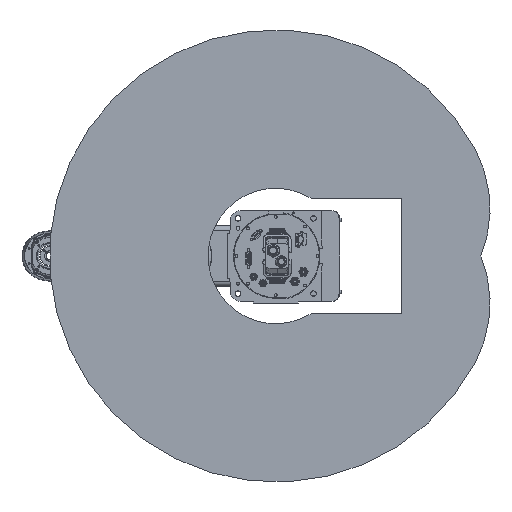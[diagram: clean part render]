
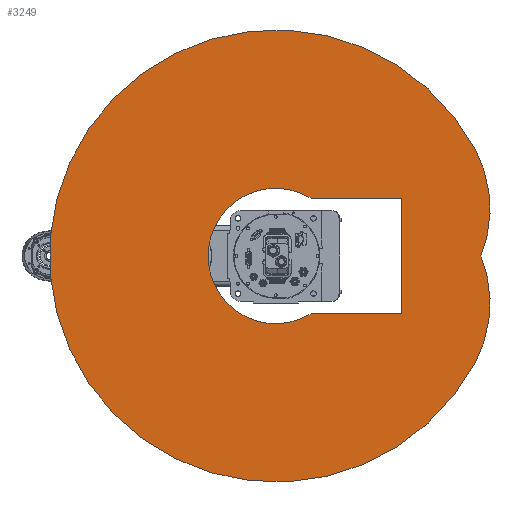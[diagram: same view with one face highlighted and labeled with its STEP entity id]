
A CAD part, front view. The second image highlights one B-rep face of the part: STEP entity #3249.
In plain terms, the highlighted planar face has unit normal (0, -1, 0).
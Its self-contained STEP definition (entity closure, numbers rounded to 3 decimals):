
#3249 = ADVANCED_FACE( '', ( #9114, #9115 ), #9116, .F. );
#9114 = FACE_OUTER_BOUND( '', #18677, .T. );
#9115 = FACE_BOUND( '', #18678, .T. );
#9116 = PLANE( '', #18679 );
#18677 = EDGE_LOOP( '', ( #29489, #29490, #29491 ) );
#18678 = EDGE_LOOP( '', ( #29492, #29493, #29494, #29495 ) );
#18679 = AXIS2_PLACEMENT_3D( '', #29496, #29497, #29498 );
#29489 = ORIENTED_EDGE( '', *, *, #52348, .F. );
#29490 = ORIENTED_EDGE( '', *, *, #52349, .F. );
#29491 = ORIENTED_EDGE( '', *, *, #52350, .F. );
#29492 = ORIENTED_EDGE( '', *, *, #52351, .T. );
#29493 = ORIENTED_EDGE( '', *, *, #52352, .T. );
#29494 = ORIENTED_EDGE( '', *, *, #52353, .T. );
#29495 = ORIENTED_EDGE( '', *, *, #52354, .T. );
#29496 = CARTESIAN_POINT( '', ( 46.947, 0., 88.295 ) );
#29497 = DIRECTION( '', ( 0., 1., 0. ) );
#29498 = DIRECTION( '', ( 0., 0., 1. ) );
#52348 = EDGE_CURVE( '', #61685, #61686, #61687, .T. );
#52349 = EDGE_CURVE( '', #61688, #61685, #61689, .T. );
#52350 = EDGE_CURVE( '', #61686, #61688, #61690, .T. );
#52351 = EDGE_CURVE( '', #61691, #61692, #61693, .T. );
#52352 = EDGE_CURVE( '', #61692, #61694, #61695, .T. );
#52353 = EDGE_CURVE( '', #61694, #61696, #61697, .T. );
#52354 = EDGE_CURVE( '', #61696, #61691, #61698, .T. );
#61685 = VERTEX_POINT( '', #75896 );
#61686 = VERTEX_POINT( '', #75897 );
#61687 = CIRCLE( '', #75898, 250. );
#61688 = VERTEX_POINT( '', #75899 );
#61689 = CIRCLE( '', #75900, 250. );
#61690 = CIRCLE( '', #75901, 450. );
#61691 = VERTEX_POINT( '', #75902 );
#61692 = VERTEX_POINT( '', #75903 );
#61693 = LINE( '', #75904, #75905 );
#61694 = VERTEX_POINT( '', #75906 );
#61695 = LINE( '', #75907, #75908 );
#61696 = VERTEX_POINT( '', #75909 );
#61697 = LINE( '', #75910, #75911 );
#61698 = CIRCLE( '', #75912, 134.76 );
#75896 = CARTESIAN_POINT( '', ( 0., 0., 408.287 ) );
#75897 = CARTESIAN_POINT( '', ( 211.262, 0., 397.326 ) );
#75898 = AXIS2_PLACEMENT_3D( '', #97326, #97327, #97328 );
#75899 = CARTESIAN_POINT( '', ( -211.262, 0., 397.326 ) );
#75900 = AXIS2_PLACEMENT_3D( '', #97329, #97330, #97331 );
#75901 = AXIS2_PLACEMENT_3D( '', #97332, #97333, #97334 );
#75902 = CARTESIAN_POINT( '', ( -115., 0., 70.251 ) );
#75903 = CARTESIAN_POINT( '', ( -115., 0., 250. ) );
#75904 = CARTESIAN_POINT( '', ( -115., 0., 0. ) );
#75905 = VECTOR( '', #97335, 1000. );
#75906 = CARTESIAN_POINT( '', ( 115., 0., 250. ) );
#75907 = CARTESIAN_POINT( '', ( -115., 0., 250. ) );
#75908 = VECTOR( '', #97336, 1000. );
#75909 = CARTESIAN_POINT( '', ( 115., 0., 70.251 ) );
#75910 = CARTESIAN_POINT( '', ( 115., 0., 250. ) );
#75911 = VECTOR( '', #97337, 1000. );
#75912 = AXIS2_PLACEMENT_3D( '', #97338, #97339, #97340 );
#97326 = CARTESIAN_POINT( '', ( 93.894, 0., 176.59 ) );
#97327 = DIRECTION( '', ( 0., 1., 0. ) );
#97328 = DIRECTION( '', ( 1., 0., 0. ) );
#97329 = CARTESIAN_POINT( '', ( -93.894, 0., 176.59 ) );
#97330 = DIRECTION( '', ( 0., 1., 0. ) );
#97331 = DIRECTION( '', ( 1., 0., 0. ) );
#97332 = CARTESIAN_POINT( '', ( 0., 0., 0. ) );
#97333 = DIRECTION( '', ( 0., 1., 0. ) );
#97334 = DIRECTION( '', ( 1., 0., 0. ) );
#97335 = DIRECTION( '', ( 0., 0., 1. ) );
#97336 = DIRECTION( '', ( 1., 0., 0. ) );
#97337 = DIRECTION( '', ( 0., 0., -1. ) );
#97338 = CARTESIAN_POINT( '', ( 0., 0., 0. ) );
#97339 = DIRECTION( '', ( 0., 1., 0. ) );
#97340 = DIRECTION( '', ( 1., 0., 0. ) );
